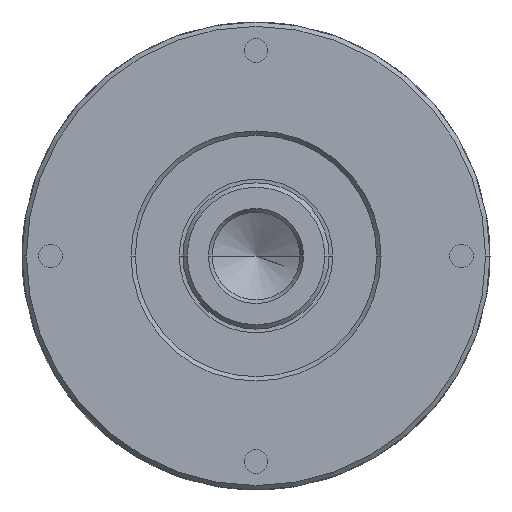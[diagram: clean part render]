
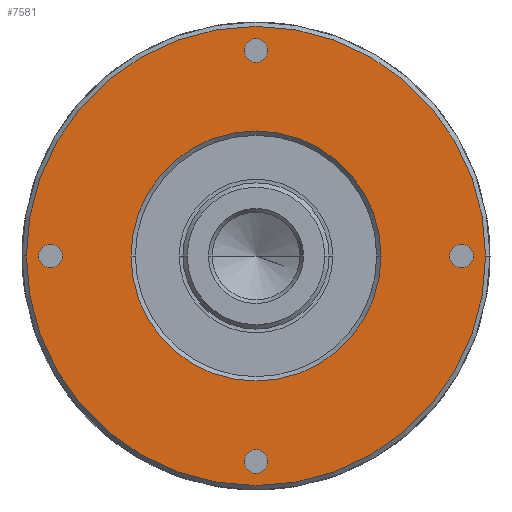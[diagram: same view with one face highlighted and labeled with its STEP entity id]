
A CAD part, left-side view. The second image highlights one B-rep face of the part: STEP entity #7581.
In plain terms, the highlighted planar face has unit normal (-1, 0, 0).
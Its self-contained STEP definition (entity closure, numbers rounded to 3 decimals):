
#6860=CARTESIAN_POINT('',(-4.9,14.05,0.));
#6861=DIRECTION('',(-1.,0.,0.));
#6862=DIRECTION('',(0.,-1.,0.));
#6863=AXIS2_PLACEMENT_3D('',#6860,#6861,#6862);
#6868=CARTESIAN_POINT('',(-4.9,14.05,0.));
#6869=DIRECTION('',(-1.,0.,0.));
#6870=DIRECTION('',(0.,1.,0.));
#6871=AXIS2_PLACEMENT_3D('',#6868,#6869,#6870);
#6876=CARTESIAN_POINT('',(-4.9,0.,14.05));
#6877=DIRECTION('',(-1.,0.,0.));
#6878=DIRECTION('',(0.,-1.,0.));
#6879=AXIS2_PLACEMENT_3D('',#6876,#6877,#6878);
#6884=CARTESIAN_POINT('',(-4.9,0.,14.05));
#6885=DIRECTION('',(-1.,0.,0.));
#6886=DIRECTION('',(0.,1.,0.));
#6887=AXIS2_PLACEMENT_3D('',#6884,#6885,#6886);
#6892=CARTESIAN_POINT('',(-4.9,-14.05,0.));
#6893=DIRECTION('',(-1.,0.,0.));
#6894=DIRECTION('',(0.,-1.,0.));
#6895=AXIS2_PLACEMENT_3D('',#6892,#6893,#6894);
#6900=CARTESIAN_POINT('',(-4.9,-14.05,0.));
#6901=DIRECTION('',(-1.,0.,0.));
#6902=DIRECTION('',(0.,1.,0.));
#6903=AXIS2_PLACEMENT_3D('',#6900,#6901,#6902);
#6908=CARTESIAN_POINT('',(-4.9,0.,-14.05));
#6909=DIRECTION('',(-1.,0.,0.));
#6910=DIRECTION('',(0.,-1.,0.));
#6911=AXIS2_PLACEMENT_3D('',#6908,#6909,#6910);
#6916=CARTESIAN_POINT('',(-4.9,0.,-14.05));
#6917=DIRECTION('',(-1.,0.,0.));
#6918=DIRECTION('',(0.,1.,0.));
#6919=AXIS2_PLACEMENT_3D('',#6916,#6917,#6918);
#6924=CARTESIAN_POINT('',(-4.9,0.,
0.));
#6925=DIRECTION('',(1.,0.,0.));
#6926=DIRECTION('',(0.,-1.,0.));
#6927=AXIS2_PLACEMENT_3D('',#6924,#6925,#6926);
#6932=CARTESIAN_POINT('',(-4.9,0.,
0.));
#6933=DIRECTION('',(1.,0.,0.));
#6934=DIRECTION('',(0.,1.,0.));
#6935=AXIS2_PLACEMENT_3D('',#6932,#6933,#6934);
#6940=CARTESIAN_POINT('',(-4.9,0.,0.));
#6941=DIRECTION('',(-1.,0.,0.));
#6942=DIRECTION('',(0.,-1.,0.));
#6943=AXIS2_PLACEMENT_3D('',#6940,#6941,#6942);
#6948=CARTESIAN_POINT('',(-4.9,0.,0.));
#6949=DIRECTION('',(-1.,0.,0.));
#6950=DIRECTION('',(0.,1.,0.));
#6951=AXIS2_PLACEMENT_3D('',#6948,#6949,#6950);
#7380=CARTESIAN_POINT('',(-4.9,13.25,0.));
#7381=CARTESIAN_POINT('',(-4.9,14.85,0.));
#7382=VERTEX_POINT('',#7380);
#7383=VERTEX_POINT('',#7381);
#7388=CARTESIAN_POINT('',(-4.9,-15.7,
0.));
#7389=CARTESIAN_POINT('',(-4.9,15.7,0.));
#7390=VERTEX_POINT('',#7388);
#7391=VERTEX_POINT('',#7389);
#7424=CARTESIAN_POINT('',(-4.9,-0.8,14.05));
#7425=VERTEX_POINT('',#7424);
#7426=CARTESIAN_POINT('',(-4.9,0.8,14.05));
#7427=VERTEX_POINT('',#7426);
#7428=CARTESIAN_POINT('',(-4.9,-14.85,0.));
#7429=VERTEX_POINT('',#7428);
#7430=CARTESIAN_POINT('',(-4.9,-13.25,0.));
#7431=VERTEX_POINT('',#7430);
#7432=CARTESIAN_POINT('',(-4.9,-0.8,-14.05));
#7433=VERTEX_POINT('',#7432);
#7434=CARTESIAN_POINT('',(-4.9,0.8,-14.05));
#7435=VERTEX_POINT('',#7434);
#7444=CARTESIAN_POINT('',(-4.9,-8.55,0.));
#7445=CARTESIAN_POINT('',(-4.9,8.55,0.));
#7446=VERTEX_POINT('',#7444);
#7447=VERTEX_POINT('',#7445);
#7542=CARTESIAN_POINT('',(-4.9,0.,0.));
#7543=DIRECTION('',(1.,0.,0.));
#7544=DIRECTION('',(0.,-1.,0.));
#7545=AXIS2_PLACEMENT_3D('',#7542,#7543,#7544);
#7546=PLANE('',#7545);
#7547=ORIENTED_EDGE('',*,*,#7522,.T.);
#7548=ORIENTED_EDGE('',*,*,#7536,.T.);
#7549=EDGE_LOOP('',(#7547,#7548));
#7550=FACE_OUTER_BOUND('',#7549,.F.);
#7552=ORIENTED_EDGE('',*,*,#7551,.T.);
#7554=ORIENTED_EDGE('',*,*,#7553,.T.);
#7555=EDGE_LOOP('',(#7552,#7554));
#7556=FACE_BOUND('',#7555,.F.);
#7558=ORIENTED_EDGE('',*,*,#7557,.T.);
#7560=ORIENTED_EDGE('',*,*,#7559,.T.);
#7561=EDGE_LOOP('',(#7558,#7560));
#7562=FACE_BOUND('',#7561,.F.);
#7564=ORIENTED_EDGE('',*,*,#7563,.T.);
#7566=ORIENTED_EDGE('',*,*,#7565,.T.);
#7567=EDGE_LOOP('',(#7564,#7566));
#7568=FACE_BOUND('',#7567,.F.);
#7570=ORIENTED_EDGE('',*,*,#7569,.T.);
#7572=ORIENTED_EDGE('',*,*,#7571,.T.);
#7573=EDGE_LOOP('',(#7570,#7572));
#7574=FACE_BOUND('',#7573,.F.);
#7576=ORIENTED_EDGE('',*,*,#7575,.T.);
#7578=ORIENTED_EDGE('',*,*,#7577,.T.);
#7579=EDGE_LOOP('',(#7576,#7578));
#7580=FACE_BOUND('',#7579,.F.);
#6864=CIRCLE('',#6863,0.8);
#6872=CIRCLE('',#6871,0.8);
#6880=CIRCLE('',#6879,0.8);
#6888=CIRCLE('',#6887,0.8);
#6896=CIRCLE('',#6895,0.8);
#6904=CIRCLE('',#6903,0.8);
#6912=CIRCLE('',#6911,0.8);
#6920=CIRCLE('',#6919,0.8);
#6928=CIRCLE('',#6927,15.7);
#6936=CIRCLE('',#6935,15.7);
#6944=CIRCLE('',#6943,8.55);
#6952=CIRCLE('',#6951,8.55);
#7522=EDGE_CURVE('',#7390,#7391,#6928,.T.);
#7536=EDGE_CURVE('',#7391,#7390,#6936,.T.);
#7551=EDGE_CURVE('',#7425,#7427,#6880,.T.);
#7553=EDGE_CURVE('',#7427,#7425,#6888,.T.);
#7557=EDGE_CURVE('',#7429,#7431,#6896,.T.);
#7559=EDGE_CURVE('',#7431,#7429,#6904,.T.);
#7563=EDGE_CURVE('',#7433,#7435,#6912,.T.);
#7565=EDGE_CURVE('',#7435,#7433,#6920,.T.);
#7569=EDGE_CURVE('',#7382,#7383,#6864,.T.);
#7571=EDGE_CURVE('',#7383,#7382,#6872,.T.);
#7575=EDGE_CURVE('',#7446,#7447,#6944,.T.);
#7577=EDGE_CURVE('',#7447,#7446,#6952,.T.);
#7581=ADVANCED_FACE('',(#7550,#7556,#7562,#7568,#7574,#7580),#7546,.F.);
